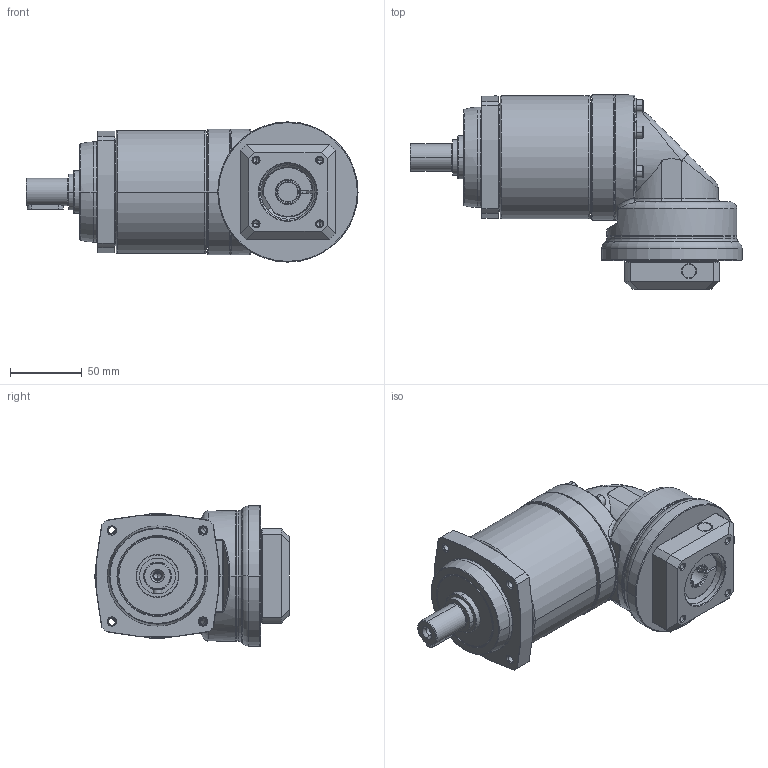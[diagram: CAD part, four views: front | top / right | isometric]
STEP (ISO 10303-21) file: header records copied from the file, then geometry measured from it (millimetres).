
FILE_DESCRIPTION((''),'2;1');
FILE_NAME('PS2R-C_2ST_14-P0411300101_ASM','2016-05-31T',('d01943'),(''),'PRO/ENGINEER BY PARAMETRIC TECHNOLOGY CORPORATION, 2008410','PRO/ENGINEER BY PARAMETRIC TECHNOLOGY CORPORATION, 2008410','');
FILE_SCHEMA(('CONFIG_CONTROL_DESIGN'));
Length unit declared in the file: millimetre
Products named in the file (12): P1328310001; P0251300001; P0350301401; P1349300001; P1017300001; P0713300001; P0503300005; P1350300001; P0411300101; P1702300001; 2111BA05025; PS2R-C_2ST_14-P0411300101_ASM
Assembly tree (16 placements, depth 2):
  PS2R-C_2ST_14-P0411300101_ASM
    P1328310001
    P0251300001
    P0350301401
    P1349300001
    P1017300001
    P0713300001
    P0503300005
    P1350300001
    P0411300101
    P1702300001
    2111BA05025  x6
Bounding box: 232 x 135.75 x 98 mm (x, y, z)
Volume: 716492.8 mm3; surface area: 189822.4 mm2
Topology: 16 solids, 16 shells, 812 faces, 1792 edges, 1040 vertices
Faces by surface type: cylinder 256, cone 238, plane 190, torus 94, bspline 34
Entity records: 23658 total; most frequent: CARTESIAN_POINT 9017, DIRECTION 3252, ORIENTED_EDGE 2832, EDGE_CURVE 1416, AXIS2_PLACEMENT_3D 1377, VERTEX_POINT 840, EDGE_LOOP 742, CIRCLE 736
